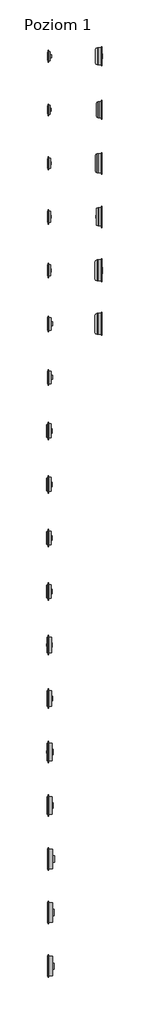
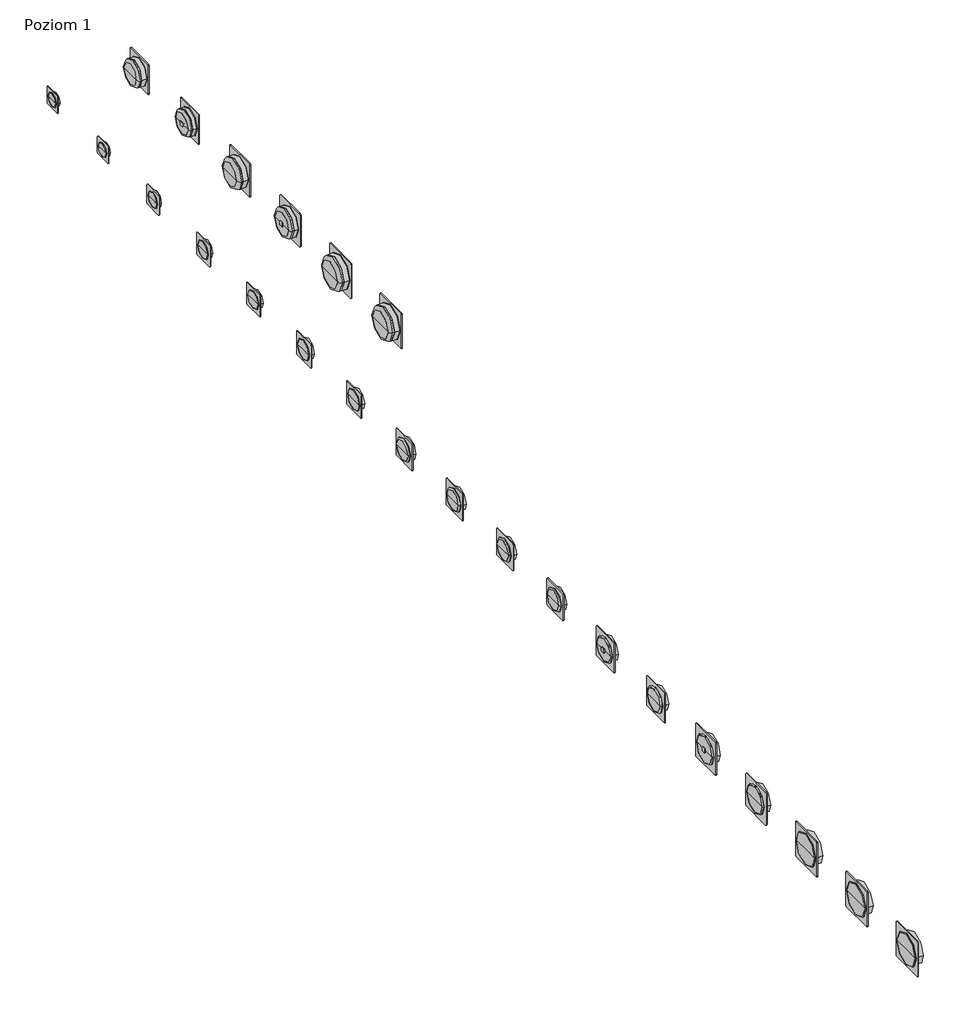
# One storey: 24 unitary equipment elements.
"""IFC4 building model written with IfcOpenShell, lengths in millimetres."""

from ifc_helpers import new_model, si_unit, origin, place, context, project, spatial, transform, mapped, element, save
from components import unitary_equipment_6732c8a4, unitary_equipment_7b43ce13, unitary_equipment_daafa31a, unitary_equipment_7aae4025, unitary_equipment_461d06a3, unitary_equipment_fb63e7d3, unitary_equipment_2200db47, unitary_equipment_527b3e4e, unitary_equipment_3c9ff978, unitary_equipment_28228eef, unitary_equipment_242db597, unitary_equipment_315_2_3800s_33b267a5, unitary_equipment_315_2_3800t_c642afdd, unitary_equipment_355_4_3600t_8e2043ff, unitary_equipment_400_4_5400t_5ea060fb, unitary_equipment_450_4_6400s_c681895a, unitary_equipment_500_4_8000s_2462a508, unitary_equipment_500_6_5500t_493c1791, unitary_equipment_560_6_8600t_817bf8c2

model = new_model("IFC4")

# Units and contexts
model_context = context("Model", 3, world=origin())
ifc_project = project(units=[si_unit("LENGTHUNIT", "METRE", prefix="MILLI")], contexts=[model_context])

# Site, building, storey
site = spatial("IfcSite", under=ifc_project)
building = spatial("IfcBuilding", under=site)
storey = spatial("IfcBuildingStorey", under=building, Name="Poziom 1", Elevation=0.0)

# Unitary equipment
placement = place(None, origin())
unitary_equipment_shape = unitary_equipment_6732c8a4(model_context)
element("IfcUnitaryEquipment", 1, ObjectType="VE-Wentylator-ParaForma-Harmann-WAF-Wywiewny : 560/4/13200T", at=placement, inside=storey, context=model_context, shape_type="MappedRepresentation", body=[
    mapped(unitary_equipment_shape, transform((4582.5, -13000.0, 0.0), x_axis=(0.0, -1.0, 0.0), y_axis=(0.0, 0.0, 1.0), z_axis=(-1.0, 0.0, 0.0))),
])
unitary_equipment_2_shape = unitary_equipment_7b43ce13(model_context)
element("IfcUnitaryEquipment", 2, ObjectType="VE-Wentylator-ParaForma-Harmann-WAF-Wywiewny : 630/4/18900T", at=placement, inside=storey, context=model_context, shape_type="MappedRepresentation", body=[
    mapped(unitary_equipment_2_shape, transform((4582.5, -17000.0, 0.0), x_axis=(0.0, -1.0, 0.0), y_axis=(0.0, 0.0, 1.0), z_axis=(-1.0, 0.0, 0.0))),
])
unitary_equipment_3_shape = unitary_equipment_daafa31a(model_context)
element("IfcUnitaryEquipment", 3, ObjectType="VE-Wentylator-ParaForma-Harmann-WAF-Wywiewny : 630/6/12200T", at=placement, inside=storey, context=model_context, shape_type="MappedRepresentation", body=[
    mapped(unitary_equipment_3_shape, transform((4582.5, -19000.0, 0.0), x_axis=(0.0, -1.0, 0.0), y_axis=(0.0, 0.0, 1.0), z_axis=(-1.0, 0.0, 0.0))),
])
unitary_equipment_4_shape = unitary_equipment_7aae4025(model_context)
element("IfcUnitaryEquipment", 4, ObjectType="VE-Wentylator-ParaForma-Harmann-WAF-Wywiewny : 710/4/27000T", at=placement, inside=storey, context=model_context, shape_type="MappedRepresentation", body=[
    mapped(unitary_equipment_4_shape, transform((4582.5, -21000.0, 0.0), x_axis=(0.0, -1.0, 0.0), y_axis=(0.0, 0.0, 1.0), z_axis=(-1.0, 0.0, 0.0))),
])
unitary_equipment_5_shape = unitary_equipment_461d06a3(model_context)
element("IfcUnitaryEquipment", 5, ObjectType="VE-Wentylator-ParaForma-Harmann-WAF-Wywiewny : 710/6/17000T", at=placement, inside=storey, context=model_context, shape_type="MappedRepresentation", body=[
    mapped(unitary_equipment_5_shape, transform((4582.5, -25000.0, 0.0), x_axis=(0.0, -1.0, 0.0), y_axis=(0.0, 0.0, 1.0), z_axis=(-1.0, 0.0, 0.0))),
])
element("IfcUnitaryEquipment", 6, ObjectType="VE-Wentylator-ParaForma-Harmann-WAF-Wywiewny : 710/6/16400S", at=placement, inside=storey, context=model_context, shape_type="MappedRepresentation", body=[
    mapped(unitary_equipment_5_shape, transform((4582.5, -23000.0, 0.0), x_axis=(0.0, -1.0, 0.0), y_axis=(0.0, 0.0, 1.0), z_axis=(-1.0, 0.0, 0.0))),
])
unitary_equipment_6_shape = unitary_equipment_fb63e7d3(model_context)
element("IfcUnitaryEquipment", 7, ObjectType="VE-Wentylator-ParaForma-Harmann-WAF-Nawiewny : 560/6/8/8700T", at=placement, inside=storey, context=model_context, shape_type="MappedRepresentation", body=[
    mapped(unitary_equipment_6_shape, transform((6582.5, 7000.0, 0.0), x_axis=(0.0, 1.0, 0.0), y_axis=(0.0, 0.0, -1.0), z_axis=(-1.0, 0.0, 0.0))),
])
unitary_equipment_7_shape = unitary_equipment_2200db47(model_context)
element("IfcUnitaryEquipment", 8, ObjectType="VE-Wentylator-ParaForma-Harmann-WAF-Nawiewny : 630/4/6/18900T", at=placement, inside=storey, context=model_context, shape_type="MappedRepresentation", body=[
    mapped(unitary_equipment_7_shape, transform((6582.5, 5000.0, 0.0), x_axis=(0.0, 1.0, 0.0), y_axis=(0.0, 0.0, -1.0), z_axis=(-1.0, 0.0, 0.0))),
])
unitary_equipment_8_shape = unitary_equipment_527b3e4e(model_context)
element("IfcUnitaryEquipment", 9, ObjectType="VE-Wentylator-ParaForma-Harmann-WAF-Nawiewny : 630/6/8/12200T", at=placement, inside=storey, context=model_context, shape_type="MappedRepresentation", body=[
    mapped(unitary_equipment_8_shape, transform((6582.5, 3000.0, 0.0), x_axis=(0.0, 1.0, 0.0), y_axis=(0.0, 0.0, -1.0), z_axis=(-1.0, 0.0, 0.0))),
])
unitary_equipment_9_shape = unitary_equipment_3c9ff978(model_context)
element("IfcUnitaryEquipment", 10, ObjectType="VE-Wentylator-ParaForma-Harmann-WAF-Nawiewny : 710/4/6/25000T", at=placement, inside=storey, context=model_context, shape_type="MappedRepresentation", body=[
    mapped(unitary_equipment_9_shape, transform((6582.5, 1000.0, 0.0), x_axis=(0.0, 1.0, 0.0), y_axis=(0.0, 0.0, -1.0), z_axis=(-1.0, 0.0, 0.0))),
])
unitary_equipment_10_shape = unitary_equipment_28228eef(model_context)
element("IfcUnitaryEquipment", 11, ObjectType="VE-Wentylator-ParaForma-Harmann-WAF-Nawiewny : 710/6/8/16800T", at=placement, inside=storey, context=model_context, shape_type="MappedRepresentation", body=[
    mapped(unitary_equipment_10_shape, transform((6582.5, -1000.0, 0.0), x_axis=(0.0, 1.0, 0.0), y_axis=(0.0, 0.0, -1.0), z_axis=(-1.0, 0.0, 0.0))),
])
unitary_equipment_11_shape = unitary_equipment_242db597(model_context)
element("IfcUnitaryEquipment", 12, ObjectType="VE-Wentylator-ParaForma-Harmann-WAF-Nawiewny : 560/4/6/13200T", at=placement, inside=storey, context=model_context, shape_type="MappedRepresentation", body=[
    mapped(unitary_equipment_11_shape, transform((6582.5, 9000.0, 0.0), x_axis=(0.0, 1.0, 0.0), y_axis=(0.0, 0.0, -1.0), z_axis=(-1.0, 0.0, 0.0))),
])
unitary_equipment_315_2_3800s_shape = unitary_equipment_315_2_3800s_33b267a5(model_context)
element("IfcUnitaryEquipment", 13, ObjectType="VE-Wentylator-ParaForma-Harmann-WAF-Wywiewny : 315/2/3800S", at=placement, inside=storey, context=model_context, shape_type="MappedRepresentation", body=[
    mapped(unitary_equipment_315_2_3800s_shape, transform((4582.5, 9000.0, 0.0), x_axis=(0.0, -1.0, 0.0), y_axis=(0.0, 0.0, 1.0), z_axis=(-1.0, 0.0, 0.0))),
])
unitary_equipment_315_2_3800t_shape = unitary_equipment_315_2_3800t_c642afdd(model_context)
element("IfcUnitaryEquipment", 14, ObjectType="VE-Wentylator-ParaForma-Harmann-WAF-Wywiewny : 315/2/3800T", at=placement, inside=storey, context=model_context, shape_type="MappedRepresentation", body=[
    mapped(unitary_equipment_315_2_3800t_shape, transform((4582.5, 7000.0, 0.0), x_axis=(0.0, -1.0, 0.0), y_axis=(0.0, 0.0, 1.0), z_axis=(-1.0, 0.0, 0.0))),
])
unitary_equipment_355_4_3600t_shape = unitary_equipment_355_4_3600t_8e2043ff(model_context)
element("IfcUnitaryEquipment", 15, ObjectType="VE-Wentylator-ParaForma-Harmann-WAF-Wywiewny : 355/4/3600T", at=placement, inside=storey, context=model_context, shape_type="MappedRepresentation", body=[
    mapped(unitary_equipment_355_4_3600t_shape, transform((4582.5, 5000.0, 0.0), x_axis=(0.0, -1.0, 0.0), y_axis=(0.0, 0.0, 1.0), z_axis=(-1.0, 0.0, 0.0))),
])
unitary_equipment_400_4_5400t_shape = unitary_equipment_400_4_5400t_5ea060fb(model_context)
element("IfcUnitaryEquipment", 16, ObjectType="VE-Wentylator-ParaForma-Harmann-WAF-Wywiewny : 400/4/5400T", at=placement, inside=storey, context=model_context, shape_type="MappedRepresentation", body=[
    mapped(unitary_equipment_400_4_5400t_shape, transform((4582.5, 3000.0, 0.0), x_axis=(0.0, -1.0, 0.0), y_axis=(0.0, 0.0, 1.0), z_axis=(-1.0, 0.0, 0.0))),
])
element("IfcUnitaryEquipment", 17, ObjectType="VE-Wentylator-ParaForma-Harmann-WAF-Wywiewny : 400/6/3500S", at=placement, inside=storey, context=model_context, shape_type="MappedRepresentation", body=[
    mapped(unitary_equipment_400_4_5400t_shape, transform((4582.5, 1000.0, 0.0), x_axis=(0.0, -1.0, 0.0), y_axis=(0.0, 0.0, 1.0), z_axis=(-1.0, 0.0, 0.0))),
])
unitary_equipment_450_4_6400s_shape = unitary_equipment_450_4_6400s_c681895a(model_context)
element("IfcUnitaryEquipment", 18, ObjectType="VE-Wentylator-ParaForma-Harmann-WAF-Wywiewny : 450/4/6400S", at=placement, inside=storey, context=model_context, shape_type="MappedRepresentation", body=[
    mapped(unitary_equipment_450_4_6400s_shape, transform((4582.5, -1000.0, 0.0), x_axis=(0.0, -1.0, 0.0), y_axis=(0.0, 0.0, 1.0), z_axis=(-1.0, 0.0, 0.0))),
])
element("IfcUnitaryEquipment", 19, ObjectType="VE-Wentylator-ParaForma-Harmann-WAF-Wywiewny : 450/4/6400T", at=placement, inside=storey, context=model_context, shape_type="MappedRepresentation", body=[
    mapped(unitary_equipment_450_4_6400s_shape, transform((4582.5, -3000.0, 0.0), x_axis=(0.0, -1.0, 0.0), y_axis=(0.0, 0.0, 1.0), z_axis=(-1.0, 0.0, 0.0))),
])
unitary_equipment_500_4_8000s_shape = unitary_equipment_500_4_8000s_2462a508(model_context)
element("IfcUnitaryEquipment", 20, ObjectType="VE-Wentylator-ParaForma-Harmann-WAF-Wywiewny : 500/4/8000S", at=placement, inside=storey, context=model_context, shape_type="MappedRepresentation", body=[
    mapped(unitary_equipment_500_4_8000s_shape, transform((4582.5, -5000.0, 0.0), x_axis=(0.0, -1.0, 0.0), y_axis=(0.0, 0.0, 1.0), z_axis=(-1.0, 0.0, 0.0))),
])
element("IfcUnitaryEquipment", 21, ObjectType="VE-Wentylator-ParaForma-Harmann-WAF-Wywiewny : 500/4/8300T", at=placement, inside=storey, context=model_context, shape_type="MappedRepresentation", body=[
    mapped(unitary_equipment_500_4_8000s_shape, transform((4582.5, -7000.0, 0.0), x_axis=(0.0, -1.0, 0.0), y_axis=(0.0, 0.0, 1.0), z_axis=(-1.0, 0.0, 0.0))),
])
element("IfcUnitaryEquipment", 22, ObjectType="VE-Wentylator-ParaForma-Harmann-WAF-Wywiewny : 500/6/5500S", at=placement, inside=storey, context=model_context, shape_type="MappedRepresentation", body=[
    mapped(unitary_equipment_500_4_8000s_shape, transform((4582.5, -9000.0, 0.0), x_axis=(0.0, -1.0, 0.0), y_axis=(0.0, 0.0, 1.0), z_axis=(-1.0, 0.0, 0.0))),
])
unitary_equipment_500_6_5500t_shape = unitary_equipment_500_6_5500t_493c1791(model_context)
element("IfcUnitaryEquipment", 23, ObjectType="VE-Wentylator-ParaForma-Harmann-WAF-Wywiewny : 500/6/5500T", at=placement, inside=storey, context=model_context, shape_type="MappedRepresentation", body=[
    mapped(unitary_equipment_500_6_5500t_shape, transform((4582.5, -11000.0, 0.0), x_axis=(0.0, -1.0, 0.0), y_axis=(0.0, 0.0, 1.0), z_axis=(-1.0, 0.0, 0.0))),
])
unitary_equipment_560_6_8600t_shape = unitary_equipment_560_6_8600t_817bf8c2(model_context)
element("IfcUnitaryEquipment", 24, ObjectType="VE-Wentylator-ParaForma-Harmann-WAF-Wywiewny : 560/6/8600T", at=placement, inside=storey, context=model_context, shape_type="MappedRepresentation", body=[
    mapped(unitary_equipment_560_6_8600t_shape, transform((4582.5, -15000.0, 0.0), x_axis=(0.0, -1.0, 0.0), y_axis=(0.0, 0.0, 1.0), z_axis=(-1.0, 0.0, 0.0))),
])

save(model, "model.ifc")
